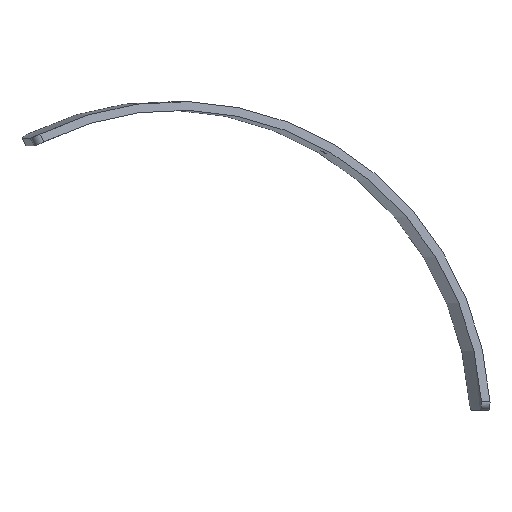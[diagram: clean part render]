
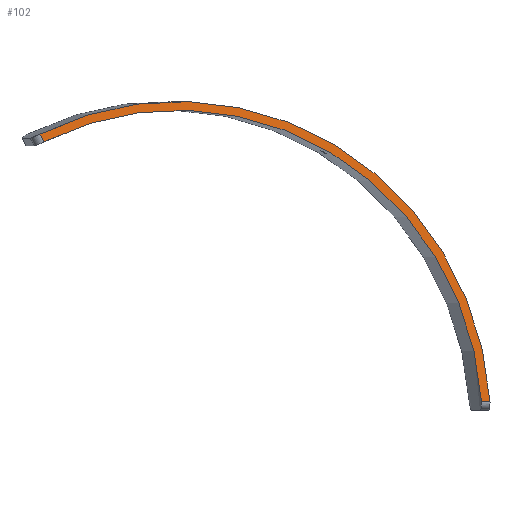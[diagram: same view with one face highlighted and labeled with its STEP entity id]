
A CAD part, left-side view. The second image highlights one B-rep face of the part: STEP entity #102.
In plain terms, the highlighted planar face has unit normal (-0.972, -0.233, 0).
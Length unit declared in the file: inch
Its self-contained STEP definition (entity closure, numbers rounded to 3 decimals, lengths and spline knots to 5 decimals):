
#11 = DIRECTION ( 'NONE',  ( 0.233, -0.972, 0.042 ) ) ;
#54 = DIRECTION ( 'NONE',  ( -0.972, -0.233, 0. ) ) ;
#57 = VECTOR ( 'NONE', #352, 39.37008 ) ;
#75 = EDGE_CURVE ( 'NONE', #602, #387, #127, .T. ) ;
#88 = CARTESIAN_POINT ( 'NONE',  ( 25.00998, -117.02503, 0. ) ) ;
#102 = ADVANCED_FACE ( 'NONE', ( #257 ), #598, .F. ) ;
#127 = LINE ( 'NONE', #293, #57 ) ;
#165 = CARTESIAN_POINT ( 'NONE',  ( 21.22019, -101.23943, 33.19826 ) ) ;
#171 = AXIS2_PLACEMENT_3D ( 'NONE', #392, #342, #238 ) ;
#183 = ORIENTED_EDGE ( 'NONE', *, *, #75, .T. ) ;
#221 = CARTESIAN_POINT ( 'NONE',  ( 33.38322, -151.90207, 2.49855 ) ) ;
#237 = EDGE_CURVE ( 'NONE', #618, #455, #524, .T. ) ;
#238 = DIRECTION ( 'NONE',  ( 0.233, -0.972, 0. ) ) ;
#248 = CARTESIAN_POINT ( 'NONE',  ( 21.32842, -101.69024, 32.3118 ) ) ;
#257 = FACE_OUTER_BOUND ( 'NONE', #522, .T. ) ;
#259 = EDGE_CURVE ( 'NONE', #455, #602, #571, .T. ) ;
#273 = EDGE_CURVE ( 'NONE', #618, #387, #416, .T. ) ;
#292 = CARTESIAN_POINT ( 'NONE',  ( 25.00024, -116.98446, 0.99913 ) ) ;
#293 = CARTESIAN_POINT ( 'NONE',  ( 25.21684, -117.88667, 0.46344 ) ) ;
#298 = AXIS2_PLACEMENT_3D ( 'NONE', #88, #584, #726 ) ;
#342 = DIRECTION ( 'NONE',  ( -0.972, -0.233, 0. ) ) ;
#352 = DIRECTION ( 'NONE',  ( 0.108, -0.451, -0.886 ) ) ;
#387 = VERTEX_POINT ( 'NONE', #248 ) ;
#392 = CARTESIAN_POINT ( 'NONE',  ( 25.00998, -117.02503, 0. ) ) ;
#399 = ORIENTED_EDGE ( 'NONE', *, *, #237, .T. ) ;
#416 = CIRCLE ( 'NONE', #676, 35.955 ) ;
#455 = VERTEX_POINT ( 'NONE', #576 ) ;
#465 = VECTOR ( 'NONE', #11, 39.37008 ) ;
#480 = ORIENTED_EDGE ( 'NONE', *, *, #259, .T. ) ;
#522 = EDGE_LOOP ( 'NONE', ( #480, #183, #645, #399 ) ) ;
#524 = LINE ( 'NONE', #292, #465 ) ;
#569 = CARTESIAN_POINT ( 'NONE',  ( 25.00998, -117.02503, 0. ) ) ;
#571 = CIRCLE ( 'NONE', #171, 36.955 ) ;
#576 = CARTESIAN_POINT ( 'NONE',  ( 33.61655, -152.87396, 2.54028 ) ) ;
#584 = DIRECTION ( 'NONE',  ( 0.972, 0.233, 0. ) ) ;
#598 = PLANE ( 'NONE',  #298 ) ;
#602 = VERTEX_POINT ( 'NONE', #165 ) ;
#618 = VERTEX_POINT ( 'NONE', #221 ) ;
#645 = ORIENTED_EDGE ( 'NONE', *, *, #273, .F. ) ;
#676 = AXIS2_PLACEMENT_3D ( 'NONE', #569, #54, #697 ) ;
#697 = DIRECTION ( 'NONE',  ( 0.233, -0.972, 0. ) ) ;
#726 = DIRECTION ( 'NONE',  ( -0.233, 0.972, 0. ) ) ;
